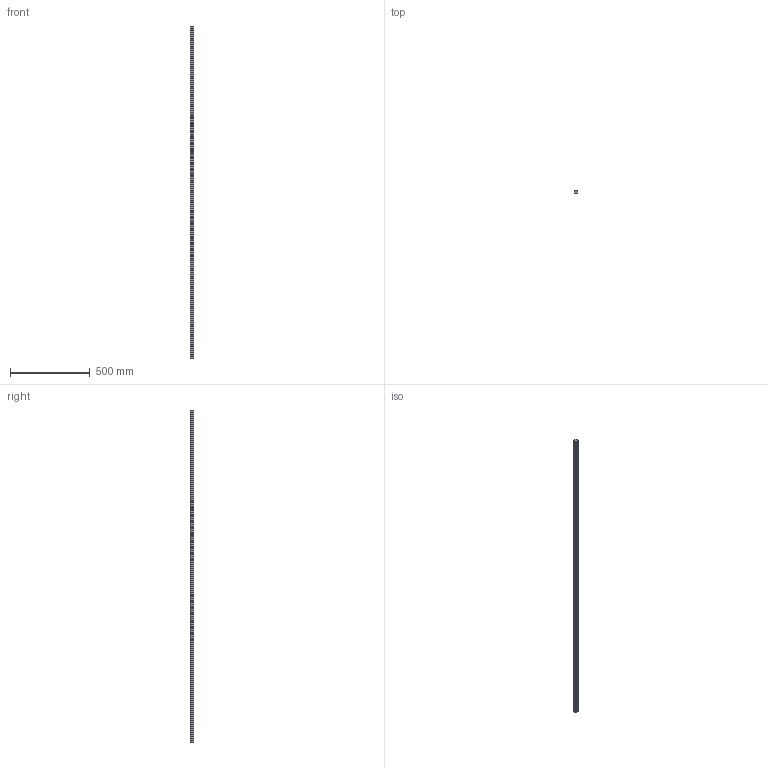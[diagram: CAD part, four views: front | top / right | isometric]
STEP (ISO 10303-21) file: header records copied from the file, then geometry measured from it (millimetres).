
FILE_DESCRIPTION (( 'STEP AP203' ), '1' );
FILE_NAME ('L1016.BRF25-2080.step', '2019-06-13T08:40:49', ( '' ), ( '' ), 'SwSTEP 2.0', 'SolidWorks 2017', '' );
FILE_SCHEMA (( 'CONFIG_CONTROL_DESIGN' ));
Length unit declared in the file: millimetre
Products named in the file (1): L1016.BRF25-2080
Bounding box: 23 x 19.2 x 2080 mm (x, y, z)
Volume: 794112.4 mm3; surface area: 191667.6 mm2
Topology: 1 solids, 1 shells, 271 faces, 632 edges, 363 vertices
Faces by surface type: cylinder 144, cone 70, plane 57
Entity records: 7341 total; most frequent: DIRECTION 1394, CARTESIAN_POINT 1197, ORIENTED_EDGE 1124, EDGE_CURVE 562, AXIS2_PLACEMENT_3D 560, VERTEX_POINT 363, EDGE_LOOP 341, CIRCLE 288
